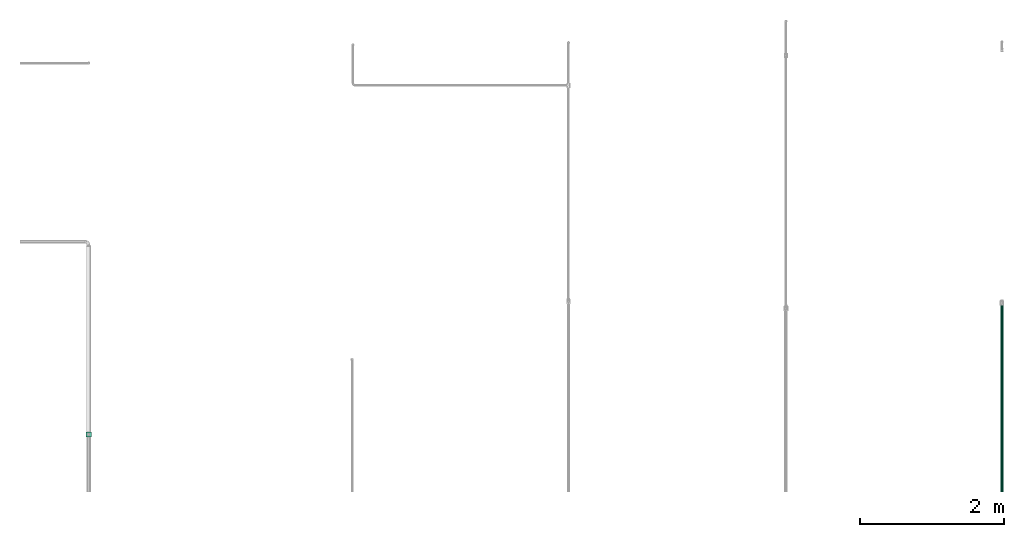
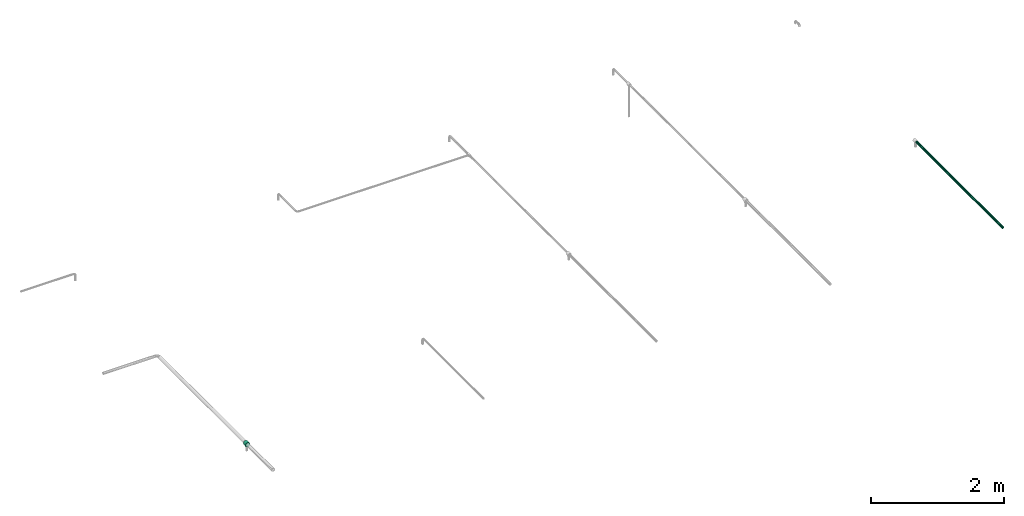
# One storey, part 14 of 17: 1 flow fitting, 1 flow segment.
"""IFC2X3 building model written with IfcOpenShell, lengths in millimetres."""

import ifcopenshell
import ifcopenshell.guid

model = None  # the IFC model being written
_history = None  # IfcOwnerHistory: only IFC2X3 demands one
_inside = {}  # id of a spatial element -> (the spatial element, [elements in it])
_under = {}  # id of a project, library or spatial element -> (it, [spatial elements below it])
_declared = {}  # id of a project -> (the project, [libraries it declares])
_typed = {}  # id of a type object -> (the type object, [elements of that type])
_made_of = {}  # id of a material, layer set ... -> (it, [elements and type objects made of it])


def new_model(schema):
    """Start an empty IFC model of exactly this schema.

    Asked for "IFC4X3", IfcOpenShell would pick the latest addendum, in which some entities
    have other attributes; the version numbers below select the first issue.
    IFC2X3 requires an IfcOwnerHistory on every rooted entity: one is made here for all.
    """
    global model, _history
    if schema == "IFC4X3":
        model = ifcopenshell.file(schema_version=(4, 3, 0, 0))
    else:
        model = ifcopenshell.file(schema=schema)
    _inside.clear()
    _under.clear()
    _declared.clear()
    _typed.clear()
    _made_of.clear()
    _history = None
    if model.schema == "IFC2X3":
        org = make("IfcOrganization", Name="unknown")
        user = make(
            "IfcPersonAndOrganization",
            ThePerson=make("IfcPerson", FamilyName="unknown"),
            TheOrganization=org,
        )
        app = make(
            "IfcApplication",
            ApplicationDeveloper=org,
            Version="unknown",
            ApplicationFullName="unknown",
            ApplicationIdentifier="unknown",
        )
        _history = make(
            "IfcOwnerHistory",
            OwningUser=user,
            OwningApplication=app,
            ChangeAction="ADDED",
            CreationDate=0,
        )
    return model


def make(cls, **values):
    """One entity of the class cls with the attributes given. An attribute that is None is left unset."""
    return model.create_entity(
        cls, **{name: value for name, value in values.items() if value is not None}
    )


def entity(cls, *values):
    """Any entity or typed value of the class cls, its attributes in the order of the schema. None: left unset."""
    e = model.create_entity(cls)
    for i, value in enumerate(values):
        if value is not None:
            e[i] = value
    return e


def rooted(cls, **values):
    """An entity with a GlobalId (a new one), such as an element, a storey or a relation."""
    return make(cls, GlobalId=ifcopenshell.guid.new(), OwnerHistory=_history, **values)


def si_unit(unit_type, name, prefix=None):
    """IfcSIUnit, for example si_unit("LENGTHUNIT", "METRE", prefix="MILLI")."""
    return make("IfcSIUnit", UnitType=unit_type, Prefix=prefix, Name=name)


def converted_unit(unit_type, name, factor, base, dimensions=None, offset=None):
    """IfcConversionBasedUnit, such as the inch: factor (a typed value) times the base unit."""
    return make(
        "IfcConversionBasedUnit"
        if offset is None
        else "IfcConversionBasedUnitWithOffset",
        ConversionOffset=offset,
        Dimensions=None
        if dimensions is None
        else entity("IfcDimensionalExponents", *dimensions),
        UnitType=unit_type,
        Name=name,
        ConversionFactor=make(
            "IfcMeasureWithUnit", ValueComponent=factor, UnitComponent=base
        ),
    )


def derived_unit(unit_type, elements):
    """IfcDerivedUnit: a product of units, each with its exponent."""
    return make(
        "IfcDerivedUnit",
        Elements=[
            make("IfcDerivedUnitElement", Unit=unit, Exponent=power)
            for unit, power in elements
        ],
        UnitType=unit_type,
    )


def assignment(units):
    """IfcUnitAssignment: the units of a project."""
    return None if units is None else make("IfcUnitAssignment", Units=units)


def point(xyz):
    """IfcCartesianPoint."""
    return None if xyz is None else make("IfcCartesianPoint", Coordinates=xyz)


def direction(xyz):
    """IfcDirection."""
    return None if xyz is None else make("IfcDirection", DirectionRatios=xyz)


def frame(location, z_axis=None, x_axis=None):
    """IfcAxis2Placement3D, a coordinate frame: its origin and axes. An axis left out is left unset."""
    return make(
        "IfcAxis2Placement3D",
        Location=point(location),
        Axis=direction(z_axis),
        RefDirection=direction(x_axis),
    )


def origin_with_axes():
    """The frame at (0, 0, 0) with the z axis (0, 0, 1) and the x axis (1, 0, 0) written out."""
    return frame((0.0, 0.0, 0.0), z_axis=(0.0, 0.0, 1.0), x_axis=(1.0, 0.0, 0.0))


def place(relative_to, where):
    """IfcLocalPlacement: puts the frame where relative to a parent placement (None: the world)."""
    return make(
        "IfcLocalPlacement", PlacementRelTo=relative_to, RelativePlacement=where
    )


def context(
    kind, dimensions, precision=None, world=None, true_north=None, identifier=None
):
    """IfcGeometricRepresentationContext, for example the 3D "Model" context."""
    return make(
        "IfcGeometricRepresentationContext",
        ContextIdentifier=identifier,
        ContextType=kind,
        CoordinateSpaceDimension=dimensions,
        Precision=precision,
        WorldCoordinateSystem=world,
        TrueNorth=true_north,
    )


def subcontext(parent, identifier, kind, view, scale=None):
    """IfcGeometricRepresentationSubContext, for example "Body" below "Model"."""
    return make(
        "IfcGeometricRepresentationSubContext",
        ContextIdentifier=identifier,
        ContextType=kind,
        ParentContext=parent,
        TargetScale=scale,
        TargetView=view,
    )


def project(units=None, contexts=None):
    """IfcProject with its units and contexts."""
    return rooted(
        "IfcProject",
        Name="project",
        RepresentationContexts=contexts,
        UnitsInContext=assignment(units),
    )


def spatial(cls, under=None, at=None, **own):
    """A site, building, storey or space (cls), placed at a placement, below another one or the project."""
    s = rooted(cls, ObjectPlacement=at, **own)
    if under is not None:
        _under.setdefault(under.id(), (under, []))[1].append(s)
    return s


def faces_of(points, faces, orient=None, outer=None):
    """IfcFace entities. A face is a list of loops; a loop is a list of indices into points, from 0.

    orient and outer hold one flag for each loop. By default every Orientation is true, the
    first loop of a face is its IfcFaceOuterBound and the others are IfcFaceBound.
    """
    made = []
    for i, loops in enumerate(faces):
        bounds = []
        for j, loop in enumerate(loops):
            is_outer = j == 0 if outer is None else outer[i][j]
            bounds.append(
                make(
                    "IfcFaceOuterBound" if is_outer else "IfcFaceBound",
                    Bound=make("IfcPolyLoop", Polygon=[points[k] for k in loop]),
                    Orientation=True if orient is None else orient[i][j],
                )
            )
        made.append(make("IfcFace", Bounds=bounds))
    return made


def open_shell(faces, orient=None, outer=None):
    """The faces of one IfcOpenShell. surface_model builds it on its shared points."""
    return ("IfcOpenShell", faces, orient, outer)


def faceted_brep(points, faces, orient=None, outer=None, voids=None):
    """IfcFacetedBrep: a solid bounded by flat faces; with voids (closed shells), ...WithVoids."""
    shared = [point(p) for p in points]
    hull = make("IfcClosedShell", CfsFaces=faces_of(shared, faces, orient, outer))
    if voids is None:
        return make("IfcFacetedBrep", Outer=hull)
    return make(
        "IfcFacetedBrepWithVoids",
        Outer=hull,
        Voids=[
            make(cls, CfsFaces=faces_of(shared, fs, o, b)) for cls, fs, o, b in voids
        ],
    )


def surface_model(cls, points, shells):
    """IfcFaceBasedSurfaceModel or IfcShellBasedSurfaceModel (cls): surfaces that need not close."""
    shared = [point(p) for p in points]
    made = [make(c, CfsFaces=faces_of(shared, fs, o, b)) for c, fs, o, b in shells]
    if cls == "IfcFaceBasedSurfaceModel":
        return make(cls, FbsmFaces=made)
    return make(cls, SbsmBoundary=made)


def shape(context_of_items, identifier, shape_type, items):
    """IfcShapeRepresentation: the items that make up one representation, for example the "Body"."""
    return make(
        "IfcShapeRepresentation",
        ContextOfItems=context_of_items,
        RepresentationIdentifier=identifier,
        RepresentationType=shape_type,
        Items=items,
    )


def source(mapping_origin, context_of_items, identifier, shape_type, items):
    """IfcRepresentationMap: a shape defined once, which mapped items show again and again."""
    return make(
        "IfcRepresentationMap",
        MappingOrigin=mapping_origin,
        MappedRepresentation=shape(context_of_items, identifier, shape_type, items),
    )


def transform(
    local_origin,
    x_axis=None,
    y_axis=None,
    z_axis=None,
    scale=None,
    scale2=None,
    scale3=None,
    uniform=True,
):
    """IfcCartesianTransformationOperator3D, or its non-uniform kind. x_axis, y_axis, z_axis: its Axis1, 2, 3."""
    if uniform:
        return make(
            "IfcCartesianTransformationOperator3D",
            Axis1=direction(x_axis),
            Axis2=direction(y_axis),
            LocalOrigin=point(local_origin),
            Scale=scale,
            Axis3=direction(z_axis),
        )
    return make(
        "IfcCartesianTransformationOperator3DnonUniform",
        Axis1=direction(x_axis),
        Axis2=direction(y_axis),
        LocalOrigin=point(local_origin),
        Scale=scale,
        Axis3=direction(z_axis),
        Scale2=scale2,
        Scale3=scale3,
    )


def mapped(mapping_source, mapping_target):
    """IfcMappedItem: shows the shape of a source again, moved by a transform."""
    return make(
        "IfcMappedItem", MappingSource=mapping_source, MappingTarget=mapping_target
    )


def made_of(thing, what):
    """Note that an element or type object is made of a material, layer set ...; save() writes the relation."""
    if what is not None:
        _made_of.setdefault(what.id(), (what, []))[1].append(thing)
    return thing


def type_object(cls, material=None, **own):
    """A type object (cls), such as IfcWallType, which elements share."""
    return made_of(rooted(cls, **own), material)


def element(
    cls,
    number,
    at=None,
    inside=None,
    cuts=None,
    type_object=None,
    material=None,
    context=None,
    identifier="Body",
    shape_type=None,
    held_by="IfcProductDefinitionShape",
    body=None,
    shapes=None,
    **own,
):
    """One element of the class cls, such as IfcWall. Its Tag is "e" and its number.

    at: its placement. inside: the storey or other place that contains it. cuts: it is an
    opening in that element (IfcRelVoidsElement). A single representation is given by context,
    identifier, shape_type and body (its items); several are given by shapes. held_by: the class
    of the entity that holds the representations. save() writes the other relations.
    """
    e = rooted(cls, Tag="e%d" % number, ObjectPlacement=at, **own)
    if body is not None:
        shapes = [shape(context, identifier, shape_type, body)]
    if shapes is not None:
        e.Representation = make(held_by, Representations=shapes)
    if inside is not None:
        _inside.setdefault(inside.id(), (inside, []))[1].append(e)
    if cuts is not None:
        rooted(
            "IfcRelVoidsElement", RelatingBuildingElement=cuts, RelatedOpeningElement=e
        )
    if type_object is not None:
        _typed.setdefault(type_object.id(), (type_object, []))[1].append(e)
    return made_of(e, material)


def aggregate(whole, parts):
    """IfcRelAggregates: a whole, such as a stair, and the parts it consists of."""
    return rooted("IfcRelAggregates", RelatingObject=whole, RelatedObjects=parts)


def save(model, path):
    """Write the relations noted so far, then the file.

    IfcRelAggregates (storeys below a building ...), IfcRelContainedInSpatialStructure (elements
    in a storey), IfcRelDefinesByType, IfcRelAssociatesMaterial and IfcRelDeclares: one each for
    every whole, place, type object, material and project.
    """
    for whole, parts in _under.values():
        aggregate(whole, parts)
    for where, things in _inside.values():
        rooted(
            "IfcRelContainedInSpatialStructure",
            RelatedElements=things,
            RelatingStructure=where,
        )
    for kind, things in _typed.values():
        rooted("IfcRelDefinesByType", RelatedObjects=things, RelatingType=kind)
    for what, things in _made_of.values():
        rooted("IfcRelAssociatesMaterial", RelatedObjects=things, RelatingMaterial=what)
    for by, libraries in _declared.values():
        rooted("IfcRelDeclares", RelatingContext=by, RelatedDefinitions=libraries)
    model.write(path)


model = new_model("IFC2X3")

# Units and contexts
model_context = context("Model", 3, precision=0.01, world=frame((0.0, 4.29681676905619e-09, 0.0)), true_north=direction((4.01073788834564e-13, 1.0)))
plan_context = context("Plan", 3, precision=0.01, world=frame((0.0, 4.29681676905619e-09, 0.0)), true_north=direction((4.01073788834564e-13, 1.0)))
body_context = subcontext(model_context, "Body", "Model", "MODEL_VIEW")
ifc_project = project(units=[converted_unit("PLANEANGLEUNIT", "DEGREE", entity("IfcPositiveLengthMeasure", 0.0174532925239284), si_unit("PLANEANGLEUNIT", "RADIAN"), dimensions=[0, 0, 0, 0, 0, 0, 0]), si_unit("AREAUNIT", "SQUARE_METRE"), si_unit("LENGTHUNIT", "METRE", prefix="MILLI"), si_unit("MASSUNIT", "GRAM", prefix="KILO"), si_unit("POWERUNIT", "WATT"), si_unit("PRESSUREUNIT", "PASCAL"), si_unit("FORCEUNIT", "NEWTON", prefix="KILO"), si_unit("ELECTRICVOLTAGEUNIT", "VOLT"), si_unit("ELECTRICCURRENTUNIT", "AMPERE"), si_unit("THERMODYNAMICTEMPERATUREUNIT", "DEGREE_CELSIUS"), si_unit("TIMEUNIT", "SECOND"), si_unit("VOLUMEUNIT", "CUBIC_METRE"), derived_unit("LINEARVELOCITYUNIT", [(si_unit("LENGTHUNIT", "METRE"), 1), (si_unit("TIMEUNIT", "SECOND"), -1)]), derived_unit("VOLUMETRICFLOWRATEUNIT", [(si_unit("VOLUMEUNIT", "CUBIC_METRE"), 1), (si_unit("TIMEUNIT", "SECOND"), -1)]), derived_unit("THERMALTRANSMITTANCEUNIT", [(si_unit("POWERUNIT", "WATT"), 1), (si_unit("THERMODYNAMICTEMPERATUREUNIT", "KELVIN"), -1), (si_unit("AREAUNIT", "SQUARE_METRE"), -1)]), derived_unit("SOUNDPRESSUREUNIT", [(si_unit("PRESSUREUNIT", "PASCAL"), 1)])], contexts=[model_context, plan_context])

# Site, building, storey
site_placement = place(None, frame((0.0, -4.29681676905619e-09, 0.0), z_axis=(0.0, 0.0, 1.0), x_axis=(1.0, 0.0, 0.0)))
site = spatial("IfcSite", under=ifc_project, at=site_placement, Name="ENGM", CompositionType="ELEMENT")
building_placement = place(site_placement, frame((0.0, 4.29681676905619e-09, 0.0), z_axis=(0.0, 0.0, 1.0), x_axis=(1.0, 0.0, 0.0)))
building = spatial("IfcBuilding", under=site, at=building_placement, Name="TH", CompositionType="ELEMENT")
storey_placement = place(building_placement, frame((0.0, 0.0, 205200.0), z_axis=(0.0, 0.0, 1.0), x_axis=(1.0, 0.0, 0.0)))
storey = spatial("IfcBuildingStorey", under=building, at=storey_placement, Name="Nivå D + 1,2 m", CompositionType="ELEMENT", Elevation=205200.0)

# Flow fitting
pipe_fitting_type = type_object("IfcPipeFittingType", Name="magi_pipe_fe_tee_centric_90_NOR 2", PredefinedType="JUNCTION")
shared_shape = source(origin_with_axes(), body_context, "Body", "SurfaceModel", [
    surface_model("IfcShellBasedSurfaceModel", [(-33.8, 15.1, -26.15397), (-33.8, 7.81634, -29.17096), (-33.8, 0.0, -30.2), (-33.8, 29.17096, -7.81634), (-33.8, 26.15397, -15.1), (-33.8, 21.35462, -21.35462), (-33.8, 30.2, 0.0), (-33.8, -30.2, 0.0), (-33.8, -15.1, -26.15397), (-33.8, -21.35462, -21.35462), (-33.8, -7.81634, -29.17096), (-33.8, -26.15397, -15.1), (-33.8, -29.17096, -7.81634), (-33.8, 26.15397, 15.1), (-33.8, 29.17096, 7.81634), (-33.8, 15.1, 26.15397), (-33.8, -21.35462, 21.35462), (-33.8, 21.35462, 21.35462), (-33.8, 7.81634, 29.17096), (-33.8, -29.17096, 7.81634), (-33.8, -26.15397, 15.1), (-33.8, -7.81634, 29.17096), (-33.8, 0.0, 30.2), (-33.8, -15.1, 26.15397), (33.8, 29.17096, -7.81634), (33.8, 0.0, -30.2), (33.8, 7.81634, -29.17096), (33.8, 21.35462, -21.35462), (33.8, 15.1, -26.15397), (33.8, 26.15397, -15.1), (33.8, -30.2, 0.0), (33.8, -7.81634, -29.17096), (33.8, -21.35462, -21.35462), (33.8, -15.1, -26.15397), (33.8, -29.17096, -7.81634), (33.8, -26.15397, -15.1), (33.8, 30.2, 0.0), (33.8, 29.17096, 7.81634), (33.8, 26.15397, 15.1), (33.8, -29.17096, 7.81634), (33.8, 15.1, 26.15397), (33.8, 7.81634, 29.17096), (33.8, 21.35462, 21.35462), (33.8, -21.35462, 21.35462), (33.8, -26.15397, 15.1), (33.8, -15.1, 26.15397), (33.8, 0.0, 30.2), (33.8, -7.81634, 29.17096), (33.8, -29.68548, 3.90817), (15.846, -29.62306, 5.87488), (16.373, -29.91153, 2.93744), (12.91037, -28.16217, 10.90561), (2.99213, -25.2068, 16.63301), (16.9, -30.2, 0.0), (33.8, -27.66246, 11.45817), (8.50854, -26.43531, 14.60187), (-8.51006, -26.43579, 14.60099), (-33.8, -27.66246, 11.45817), (-12.91447, -28.16405, 10.90075), (-15.84655, -29.62335, 5.87341), (-33.8, -29.68548, 3.90817), (-16.37327, -29.91168, 2.93671), (-16.9, -30.2, 0.0), (-2.99705, -25.20739, 16.63213), (2.99213, -25.2068, -16.63301), (-16.37327, -29.91168, -2.93671), (8.50854, -26.43531, -14.60187), (33.8, -27.66246, -11.45817), (16.373, -29.91153, -2.93744), (-33.8, -29.68548, -3.90817), (-15.84655, -29.62335, -5.87341), (15.846, -29.62306, -5.87488), (12.91037, -28.16217, -10.90561), (33.8, -29.68548, -3.90817), (-2.99705, -25.20739, -16.63213), (-8.51006, -26.43579, -14.60099), (-12.91447, -28.16405, -10.90075), (-33.8, -27.66246, -11.45817), (4.37404, -45.3, -16.32415), (-16.9, -45.3, 0.0), (0.0, -45.3, -16.9), (14.63583, -45.3, -8.45), (8.45, -45.3, -14.63583), (16.32415, -45.3, -4.37404), (11.9501, -45.3, -11.9501), (-11.9501, -45.3, -11.9501), (-8.45, -45.3, -14.63583), (-4.37404, -45.3, -16.32415), (-14.63583, -45.3, -8.45), (-16.32415, -45.3, -4.37404), (8.45, -45.3, 14.63583), (16.32415, -45.3, 4.37404), (14.63583, -45.3, 8.45), (11.9501, -45.3, 11.9501), (-16.32415, -45.3, 4.37404), (-11.9501, -45.3, 11.9501), (-14.63583, -45.3, 8.45), (-8.45, -45.3, 14.63583), (0.0, -45.3, 16.9), (-4.37404, -45.3, 16.32415), (-5.75355, -25.82159, 15.61656), (-0.00246, -25.20709, 16.63257), (5.75034, -25.82105, 15.61744), (4.37404, -45.3, 16.32415), (16.9, -45.3, 0.0), (5.75034, -25.82105, -15.61744), (-0.00246, -25.20709, -16.63257), (-5.75355, -25.82159, -15.61656), (0.0, -45.3, -25.9), (6.70341, -45.3, -25.01748), (12.95, -45.3, -22.43006), (-6.70341, -45.3, -25.01748), (22.43006, -45.3, -12.95), (25.01748, -45.3, -6.70341), (18.31407, -45.3, -18.31407), (-18.31407, -45.3, -18.31407), (-12.95, -45.3, -22.43006), (-25.01748, -45.3, -6.70341), (-22.43006, -45.3, -12.95), (-25.9, -45.3, 0.0), (-18.31407, -45.3, 18.31407), (25.9, -45.3, 0.0), (25.01748, -45.3, 6.70341), (22.43006, -45.3, 12.95), (12.95, -45.3, 22.43006), (18.31407, -45.3, 18.31407), (0.0, -45.3, 25.9), (6.70341, -45.3, 25.01748), (-25.01748, -45.3, 6.70341), (-22.43006, -45.3, 12.95), (-6.70341, -45.3, 25.01748), (-12.95, -45.3, 22.43006), (-25.07799, -38.66687, 4.54031), (-19.74582, -35.43625, 16.76045), (-24.25598, -38.13374, 9.08062), (-13.06366, -32.19456, 22.36405), (25.07844, -38.66716, 4.53909), (-25.9, -39.2, 0.0), (-4.63094, -29.78717, 25.48263), (4.63876, -29.78839, 25.48121), (0.00391, -29.78778, 25.48192), (13.06597, -32.19549, 22.3627), (19.75141, -35.43936, 16.75386), (24.25689, -38.13432, 9.07819), (25.9, -39.2, 0.0), (25.07844, -38.66716, -4.53909), (19.75141, -35.43936, -16.75386), (24.25689, -38.13432, -9.07819), (13.06597, -32.19549, -22.3627), (-25.07799, -38.66687, -4.54031), (4.63876, -29.78839, -25.48121), (-4.63094, -29.78717, -25.48263), (0.00391, -29.78778, -25.48192), (-13.06366, -32.19456, -22.36405), (-19.74582, -35.43625, -16.76045), (-24.25598, -38.13374, -9.08062), (-33.8, 10.14571, -37.86429), (-33.8, 0.0, -39.2), (-33.8, -10.14571, -37.86429), (-33.8, 19.6, -33.9482), (-33.8, 37.86429, -10.14571), (-33.8, 33.9482, -19.6), (-33.8, 27.71859, -27.71859), (-33.8, -27.71859, -27.71859), (-33.8, 39.2, 0.0), (-33.8, -19.6, -33.9482), (-33.8, -37.86429, -10.14571), (-33.8, -39.2, 0.0), (-33.8, -33.9482, -19.6), (-33.8, 33.9482, 19.6), (-33.8, 37.86429, 10.14571), (-33.8, -37.86429, 10.14571), (-33.8, 19.6, 33.9482), (-33.8, 27.71859, 27.71859), (-33.8, 10.14571, 37.86429), (-33.8, 0.0, 39.2), (-33.8, -33.9482, 19.6), (-33.8, -27.71859, 27.71859), (-33.8, -19.6, 33.9482), (-33.8, -10.14571, 37.86429), (33.8, -10.14571, -37.86429), (33.8, 0.0, -39.2), (33.8, 10.14571, -37.86429), (33.8, 19.6, -33.9482), (33.8, 27.71859, -27.71859), (33.8, 33.9482, -19.6), (33.8, 37.86429, -10.14571), (33.8, -37.86429, 10.14571), (33.8, -27.71859, -27.71859), (33.8, -19.6, -33.9482), (33.8, -33.9482, -19.6), (33.8, -39.2, 0.0), (33.8, -37.86429, -10.14571), (33.8, 39.2, 0.0), (33.8, 19.6, 33.9482), (33.8, 37.86429, 10.14571), (33.8, 33.9482, 19.6), (33.8, 0.0, 39.2), (33.8, 27.71859, 27.71859), (33.8, 10.14571, 37.86429), (33.8, -27.71859, 27.71859), (33.8, -33.9482, 19.6), (33.8, -19.6, 33.9482), (33.8, -10.14571, 37.86429), (33.8, -38.19822, 7.60928), (33.8, -30.83339, 23.65929), (33.8, -38.53215, 5.07285), (22.00415, -36.78684, 12.91602), (-22.0009, -36.78499, 12.92053), (-33.8, -36.88527, 12.50928), (33.8, -35.90624, 14.87285), (-33.8, -35.90624, 14.87285), (-33.8, -38.19822, 7.60928), (-24.66698, -38.40031, 6.81046), (33.8, -36.88527, 12.50928), (24.66766, -38.40074, 6.80864), (-33.8, -30.83339, 23.65929), (-33.8, -38.53215, 5.07285), (33.8, -38.53215, -5.07285), (-22.0009, -36.78499, -12.92053), (-33.8, -35.90624, -14.87285), (33.8, -35.90624, -14.87285), (22.00415, -36.78684, -12.91602), (33.8, -36.88527, -12.50928), (-33.8, -36.88527, -12.50928), (24.66766, -38.40074, -6.80864), (-33.8, -30.83339, -23.65929), (-33.8, -38.19822, -7.60928), (-24.66698, -38.40031, -6.81046), (-33.8, -38.53215, -5.07285), (33.8, -30.83339, -23.65929), (33.8, -38.19822, -7.60928)], [open_shell([[[0, 1, 2]], [[3, 0, 2]], [[0, 3, 4]], [[5, 0, 4]], [[6, 2, 7]], [[8, 9, 10]], [[9, 2, 10]], [[11, 12, 9]], [[7, 9, 12]], [[9, 7, 2]], [[6, 3, 2]], [[13, 14, 6]], [[7, 15, 13]], [[7, 16, 15]], [[17, 13, 15]], [[18, 15, 16]], [[19, 20, 7]], [[7, 20, 16]], [[21, 22, 23]], [[16, 23, 22]], [[16, 22, 18]], [[7, 13, 6]], [[24, 25, 26]], [[27, 26, 28]], [[29, 24, 26]], [[29, 26, 27]], [[25, 24, 30]], [[31, 32, 33]], [[32, 31, 34]], [[32, 34, 35]], [[34, 31, 30]], [[31, 25, 30]], [[24, 36, 30]], [[36, 37, 38]], [[39, 36, 38]], [[40, 41, 38]], [[40, 38, 42]], [[43, 38, 41]], [[39, 43, 44]], [[39, 38, 43]], [[45, 46, 47]], [[46, 45, 43]], [[41, 46, 43]], [[36, 39, 30]], [[48, 39, 49]], [[30, 48, 50]], [[39, 51, 49]], [[44, 43, 52]], [[30, 50, 53]], [[51, 54, 55]], [[52, 55, 44]], [[48, 49, 50]], [[43, 16, 52]], [[55, 54, 44]], [[56, 57, 58]], [[59, 60, 61]], [[62, 61, 7]], [[59, 58, 19]], [[56, 63, 20]], [[51, 39, 54]], [[20, 57, 56]], [[20, 63, 16]], [[58, 57, 19]], [[63, 52, 16]], [[7, 61, 60]], [[59, 19, 60]], [[43, 23, 16]], [[22, 47, 46]], [[21, 45, 47]], [[18, 46, 41]], [[38, 37, 14]], [[17, 40, 42]], [[13, 42, 38]], [[41, 40, 15]], [[6, 37, 36]], [[23, 45, 21]], [[21, 47, 22]], [[18, 22, 46]], [[41, 15, 18]], [[15, 40, 17]], [[13, 17, 42]], [[14, 13, 38]], [[37, 6, 14]], [[45, 23, 43]], [[4, 24, 29]], [[3, 36, 24]], [[5, 29, 27]], [[25, 31, 10]], [[1, 28, 26]], [[2, 26, 25]], [[27, 28, 0]], [[8, 31, 33]], [[6, 36, 3]], [[3, 24, 4]], [[5, 4, 29]], [[27, 0, 5]], [[0, 28, 1]], [[2, 1, 26]], [[10, 2, 25]], [[31, 8, 10]], [[33, 9, 8]], [[32, 35, 64]], [[7, 65, 62]], [[66, 64, 35]], [[67, 66, 35]], [[32, 64, 9]], [[53, 68, 30]], [[69, 70, 65]], [[71, 72, 34]], [[71, 73, 68]], [[66, 67, 72]], [[34, 72, 67]], [[74, 75, 11]], [[76, 12, 77]], [[11, 9, 74]], [[76, 77, 75]], [[74, 9, 64]], [[76, 70, 12]], [[71, 34, 73]], [[70, 69, 12]], [[65, 7, 69]], [[30, 68, 73]], [[77, 11, 75]], [[32, 9, 33]], [[78, 79, 80]], [[81, 78, 82]], [[81, 83, 78]], [[81, 82, 84]], [[79, 78, 83]], [[80, 85, 86]], [[86, 87, 80]], [[88, 79, 89]], [[85, 80, 88]], [[79, 88, 80]], [[90, 91, 92]], [[90, 92, 93]], [[94, 95, 96]], [[97, 98, 99]], [[94, 61, 79]], [[58, 96, 95]], [[94, 96, 59]], [[95, 97, 56]], [[61, 62, 79]], [[59, 96, 58]], [[99, 63, 100]], [[56, 58, 95]], [[98, 52, 101]], [[90, 102, 103]], [[98, 103, 52]], [[50, 49, 91]], [[50, 104, 53]], [[102, 90, 55]], [[100, 97, 99]], [[100, 56, 97]], [[98, 63, 99]], [[94, 59, 61]], [[55, 90, 93]], [[93, 51, 55]], [[52, 103, 102]], [[91, 49, 92]], [[104, 50, 91]], [[92, 49, 51]], [[92, 51, 93]], [[101, 63, 98]], [[83, 68, 104]], [[72, 81, 84]], [[83, 81, 71]], [[84, 82, 66]], [[68, 53, 104]], [[71, 81, 72]], [[78, 64, 105]], [[66, 72, 84]], [[80, 74, 106]], [[86, 107, 87]], [[65, 70, 89]], [[105, 82, 78]], [[105, 66, 82]], [[75, 86, 85]], [[83, 71, 68]], [[70, 88, 89]], [[65, 79, 62]], [[85, 88, 76]], [[80, 64, 78]], [[87, 107, 74]], [[74, 80, 87]], [[75, 107, 86]], [[75, 85, 76]], [[76, 88, 70]], [[79, 65, 89]], [[106, 64, 80]], [[108, 109, 110]], [[111, 108, 110]], [[112, 113, 110]], [[112, 110, 114]], [[111, 110, 113]], [[111, 115, 116]], [[115, 111, 117]], [[115, 117, 118]], [[117, 111, 119]], [[111, 113, 119]], [[113, 120, 119]], [[121, 122, 123]], [[124, 113, 123]], [[113, 124, 120]], [[124, 123, 125]], [[126, 124, 127]], [[128, 120, 129]], [[119, 120, 128]], [[120, 130, 131]], [[130, 120, 126]], [[124, 126, 120]], [[123, 113, 121]], [[119, 128, 132]], [[133, 129, 120]], [[128, 129, 134]], [[120, 131, 135]], [[121, 136, 122]], [[119, 132, 137]], [[134, 129, 133]], [[126, 138, 130]], [[135, 130, 138]], [[135, 133, 120]], [[126, 139, 140]], [[135, 131, 130]], [[139, 126, 127]], [[124, 141, 127]], [[142, 125, 123]], [[124, 125, 141]], [[143, 123, 122]], [[125, 142, 141]], [[141, 139, 127]], [[122, 136, 143]], [[143, 142, 123]], [[128, 134, 132]], [[121, 144, 136]], [[140, 138, 126]], [[121, 113, 145]], [[146, 112, 114]], [[113, 112, 147]], [[114, 110, 148]], [[119, 149, 117]], [[121, 145, 144]], [[147, 112, 146]], [[148, 109, 150]], [[148, 146, 114]], [[108, 151, 152]], [[148, 110, 109]], [[151, 108, 111]], [[116, 153, 111]], [[108, 150, 109]], [[154, 115, 118]], [[115, 153, 116]], [[155, 118, 117]], [[115, 154, 153]], [[153, 151, 111]], [[117, 149, 155]], [[155, 154, 118]], [[113, 147, 145]], [[119, 137, 149]], [[152, 150, 108]], [[156, 157, 158]], [[156, 158, 159]], [[160, 161, 162]], [[159, 160, 162]], [[159, 163, 164]], [[165, 163, 158]], [[163, 159, 158]], [[166, 167, 168]], [[163, 168, 167]], [[167, 164, 163]], [[160, 159, 164]], [[169, 170, 167]], [[169, 167, 171]], [[169, 171, 172]], [[173, 169, 172]], [[174, 172, 175]], [[176, 177, 171]], [[178, 171, 177]], [[179, 175, 178]], [[171, 178, 175]], [[175, 172, 171]], [[164, 167, 170]], [[180, 181, 182]], [[183, 180, 182]], [[184, 185, 186]], [[184, 186, 183]], [[187, 188, 183]], [[180, 188, 189]], [[180, 183, 188]], [[190, 191, 192]], [[191, 190, 188]], [[188, 187, 191]], [[193, 183, 186]], [[194, 193, 195]], [[194, 195, 196]], [[193, 194, 197]], [[194, 196, 198]], [[197, 194, 199]], [[187, 200, 201]], [[200, 187, 202]], [[202, 197, 203]], [[197, 202, 187]], [[187, 193, 197]], [[193, 187, 183]], [[204, 187, 143]], [[141, 201, 205]], [[191, 206, 136]], [[187, 207, 143]], [[200, 139, 205]], [[171, 208, 209]], [[141, 142, 201]], [[141, 205, 139]], [[191, 136, 144]], [[139, 202, 138]], [[207, 210, 142]], [[133, 176, 211]], [[212, 213, 134]], [[207, 214, 210]], [[206, 215, 136]], [[137, 132, 167]], [[133, 211, 208]], [[134, 171, 212]], [[138, 177, 216]], [[217, 132, 213]], [[135, 176, 133]], [[176, 135, 216]], [[215, 206, 204]], [[171, 134, 208]], [[177, 138, 178]], [[142, 210, 201]], [[138, 216, 135]], [[207, 187, 214]], [[202, 139, 200]], [[175, 203, 197]], [[179, 202, 203]], [[174, 197, 199]], [[196, 195, 170]], [[173, 194, 198]], [[169, 198, 196]], [[199, 194, 172]], [[164, 195, 193]], [[208, 211, 209]], [[178, 202, 179]], [[217, 213, 212]], [[179, 203, 175]], [[174, 175, 197]], [[204, 143, 215]], [[199, 172, 174]], [[172, 194, 173]], [[169, 173, 198]], [[170, 169, 196]], [[195, 164, 170]], [[202, 178, 138]], [[167, 132, 217]], [[164, 193, 186]], [[191, 145, 218]], [[186, 185, 160]], [[166, 219, 155]], [[220, 154, 219]], [[184, 161, 185]], [[158, 181, 180]], [[156, 183, 182]], [[146, 190, 221]], [[222, 221, 223]], [[181, 157, 182]], [[180, 189, 165]], [[184, 183, 162]], [[167, 149, 137]], [[161, 160, 185]], [[219, 166, 224]], [[164, 186, 160]], [[218, 145, 225]], [[184, 162, 161]], [[153, 168, 226]], [[159, 183, 156]], [[157, 156, 182]], [[181, 158, 157]], [[227, 155, 228]], [[162, 183, 159]], [[229, 228, 149]], [[165, 158, 180]], [[189, 151, 165]], [[230, 190, 148]], [[192, 222, 223]], [[150, 188, 230]], [[190, 146, 148]], [[150, 151, 189]], [[144, 145, 191]], [[146, 221, 222]], [[231, 225, 147]], [[228, 229, 227]], [[222, 192, 147]], [[153, 226, 151]], [[150, 230, 148]], [[163, 151, 226]], [[153, 154, 168]], [[163, 165, 151]], [[224, 220, 219]], [[147, 192, 231]], [[155, 227, 166]], [[149, 167, 229]], [[218, 225, 231]], [[154, 220, 168]], [[189, 188, 150]], [[83, 91, 79]], [[94, 79, 91]], [[95, 91, 90]], [[95, 90, 103]], [[94, 91, 95]], [[97, 95, 103]], [[98, 97, 103]], [[91, 83, 104]]])]),
])
flow_fitting_placement = place(storey_placement, frame((895782.28739, 476833.50742, 4417.71893), z_axis=(1.0, 0.0, 0.0), x_axis=(0.0, 1.0, 0.0)))
element("IfcFlowFitting", 1, at=flow_fitting_placement, inside=storey, type_object=pipe_fitting_type, Name="magi_pipe_fe_tee_centric_90_NOR 2", context=body_context, shape_type="MappedRepresentation", body=[
    mapped(shared_shape, transform((0.0, 0.0, 0.0), scale=1.0)),
])

# Flow segment
pipe_segment_type = type_object("IfcPipeSegmentType", Name="Stålrør normaltykke", PredefinedType="RIGIDSEGMENT")
flow_segment_placement = place(storey_placement, frame((908433.37511, 475096.53685, 4432.21101), z_axis=(0.0, 0.0, 1.0), x_axis=(0.0, 1.0, 0.0)))
element("IfcFlowSegment", 2, at=flow_segment_placement, inside=storey, type_object=pipe_segment_type, Name="Stålrør normaltykke", context=body_context, shape_type="Brep", body=[
    faceted_brep([(938.140070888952, 18.9083088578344, -3.33404501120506), (938.140070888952, 19.2, 0.0), (3525.3, 19.2, 0.0), (3525.3, 18.9083088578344, -3.33404501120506), (938.140070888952, 18.0420983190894, -6.56678675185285), (3525.3, 18.0420983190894, -6.56678675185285), (938.140070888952, 16.6276877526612, -9.60000000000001), (3525.3, 16.6276877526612, -9.60000000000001), (938.140070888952, 14.7080533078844, -12.3415221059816), (3525.3, 14.7080533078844, -12.3415221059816), (938.140070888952, 12.3415221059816, -14.7080533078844), (3525.3, 12.3415221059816, -14.7080533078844), (938.140070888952, 9.6, -16.6276877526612), (3525.3, 9.6, -16.6276877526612), (938.140070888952, 6.56678675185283, -18.0420983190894), (3525.3, 6.56678675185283, -18.0420983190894), (938.140070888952, 3.33404501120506, -18.9083088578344), (3525.3, 3.33404501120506, -18.9083088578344), (938.140070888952, -3.52698278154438e-15, -19.2), (3525.3, -3.52698278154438e-15, -19.2), (938.140070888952, -3.33404501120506, -18.9083088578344), (3525.3, -3.33404501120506, -18.9083088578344), (938.140070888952, -6.56678675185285, -18.0420983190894), (3525.3, -6.56678675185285, -18.0420983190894), (938.140070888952, -9.60000000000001, -16.6276877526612), (3525.3, -9.60000000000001, -16.6276877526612), (938.140070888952, -12.3415221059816, -14.7080533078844), (3525.3, -12.3415221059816, -14.7080533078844), (938.140070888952, -14.7080533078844, -12.3415221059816), (3525.3, -14.7080533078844, -12.3415221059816), (938.140070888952, -16.6276877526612, -9.59999999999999), (3525.3, -16.6276877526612, -9.59999999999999), (938.140070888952, -18.0420983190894, -6.56678675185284), (3525.3, -18.0420983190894, -6.56678675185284), (938.140070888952, -18.9083088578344, -3.33404501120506), (3525.3, -18.9083088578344, -3.33404501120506), (938.140070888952, -19.2, 2.35132185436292e-15), (3525.3, -19.2, 2.35132185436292e-15), (938.140070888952, -18.9083088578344, 3.33404501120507), (3525.3, -18.9083088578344, 3.33404501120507), (938.140070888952, -18.0420983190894, 6.56678675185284), (3525.3, -18.0420983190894, 6.56678675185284), (938.140070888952, -16.6276877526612, 9.6), (3525.3, -16.6276877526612, 9.6), (938.140070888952, -14.7080533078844, 12.3415221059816), (3525.3, -14.7080533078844, 12.3415221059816), (938.140070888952, -12.3415221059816, 14.7080533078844), (3525.3, -12.3415221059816, 14.7080533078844), (938.140070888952, -9.6, 16.6276877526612), (3525.3, -9.6, 16.6276877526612), (938.140070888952, -6.56678675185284, 18.0420983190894), (3525.3, -6.56678675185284, 18.0420983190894), (938.140070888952, -3.33404501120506, 18.9083088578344), (3525.3, -3.33404501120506, 18.9083088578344), (938.140070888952, 1.17566092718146e-15, 19.2), (3525.3, 1.17566092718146e-15, 19.2), (938.140070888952, 3.33404501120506, 18.9083088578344), (3525.3, 3.33404501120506, 18.9083088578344), (938.140070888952, 6.56678675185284, 18.0420983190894), (3525.3, 6.56678675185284, 18.0420983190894), (938.140070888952, 9.6, 16.6276877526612), (3525.3, 9.6, 16.6276877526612), (938.140070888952, 12.3415221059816, 14.7080533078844), (3525.3, 12.3415221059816, 14.7080533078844), (938.140070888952, 14.7080533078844, 12.3415221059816), (3525.3, 14.7080533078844, 12.3415221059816), (938.140070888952, 16.6276877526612, 9.6), (3525.3, 16.6276877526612, 9.6), (938.140070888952, 18.0420983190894, 6.56678675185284), (3525.3, 18.0420983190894, 6.56678675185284), (938.140070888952, 18.9083088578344, 3.33404501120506), (3525.3, 18.9083088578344, 3.33404501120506), (938.140070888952, 21.2, 0.0), (938.140070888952, 20.8779243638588, -3.68134136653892), (3525.3, 20.8779243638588, -3.68134136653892), (3525.3, 21.2, 0.0), (938.140070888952, 20.8779243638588, 3.68134136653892), (3525.3, 20.8779243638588, 3.68134136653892), (938.140070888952, 19.9214835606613, 7.25082703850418), (3525.3, 19.9214835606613, 7.25082703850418), (938.140070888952, 18.3597385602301, 10.6), (3525.3, 18.3597385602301, 10.6), (938.140070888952, 16.2401421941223, 13.6270973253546), (3525.3, 16.2401421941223, 13.6270973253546), (938.140070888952, 13.6270973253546, 16.2401421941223), (3525.3, 13.6270973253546, 16.2401421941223), (938.140070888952, 10.6, 18.3597385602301), (3525.3, 10.6, 18.3597385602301), (938.140070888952, 7.25082703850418, 19.9214835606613), (3525.3, 7.25082703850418, 19.9214835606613), (938.140070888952, 3.68134136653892, 20.8779243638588), (3525.3, 3.68134136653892, 20.8779243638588), (938.140070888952, 1.29812560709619e-15, 21.2), (3525.3, 1.29812560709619e-15, 21.2), (938.140070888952, -3.68134136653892, 20.8779243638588), (3525.3, -3.68134136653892, 20.8779243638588), (938.140070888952, -7.25082703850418, 19.9214835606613), (3525.3, -7.25082703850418, 19.9214835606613), (938.140070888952, -10.6, 18.3597385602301), (3525.3, -10.6, 18.3597385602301), (938.140070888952, -13.6270973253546, 16.2401421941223), (3525.3, -13.6270973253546, 16.2401421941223), (938.140070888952, -16.2401421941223, 13.6270973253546), (3525.3, -16.2401421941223, 13.6270973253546), (938.140070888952, -18.3597385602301, 10.6), (3525.3, -18.3597385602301, 10.6), (938.140070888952, -19.9214835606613, 7.25082703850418), (3525.3, -19.9214835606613, 7.25082703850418), (938.140070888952, -20.8779243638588, 3.68134136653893), (3525.3, -20.8779243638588, 3.68134136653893), (938.140070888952, -21.2, 2.59625121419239e-15), (3525.3, -21.2, 2.59625121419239e-15), (938.140070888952, -20.8779243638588, -3.68134136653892), (3525.3, -20.8779243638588, -3.68134136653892), (938.140070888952, -19.9214835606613, -7.25082703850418), (3525.3, -19.9214835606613, -7.25082703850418), (938.140070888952, -18.3597385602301, -10.6), (3525.3, -18.3597385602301, -10.6), (938.140070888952, -16.2401421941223, -13.6270973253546), (3525.3, -16.2401421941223, -13.6270973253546), (938.140070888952, -13.6270973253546, -16.2401421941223), (3525.3, -13.6270973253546, -16.2401421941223), (938.140070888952, -10.6, -18.3597385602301), (3525.3, -10.6, -18.3597385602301), (938.140070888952, -7.25082703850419, -19.9214835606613), (3525.3, -7.25082703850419, -19.9214835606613), (938.140070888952, -3.68134136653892, -20.8779243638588), (3525.3, -3.68134136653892, -20.8779243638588), (938.140070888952, -3.89437682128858e-15, -21.2), (3525.3, -3.89437682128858e-15, -21.2), (938.140070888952, 3.68134136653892, -20.8779243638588), (3525.3, 3.68134136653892, -20.8779243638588), (938.140070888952, 7.25082703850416, -19.9214835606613), (3525.3, 7.25082703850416, -19.9214835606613), (938.140070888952, 10.6, -18.3597385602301), (3525.3, 10.6, -18.3597385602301), (938.140070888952, 13.6270973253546, -16.2401421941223), (3525.3, 13.6270973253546, -16.2401421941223), (938.140070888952, 16.2401421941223, -13.6270973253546), (3525.3, 16.2401421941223, -13.6270973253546), (938.140070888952, 18.3597385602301, -10.6), (3525.3, 18.3597385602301, -10.6), (938.140070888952, 19.9214835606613, -7.25082703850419), (3525.3, 19.9214835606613, -7.25082703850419)], [[[0, 1, 2, 3]], [[4, 0, 3, 5]], [[6, 4, 5, 7]], [[8, 6, 7, 9]], [[10, 8, 9, 11]], [[12, 10, 11, 13]], [[14, 12, 13, 15]], [[16, 14, 15, 17]], [[18, 16, 17, 19]], [[20, 18, 19, 21]], [[22, 20, 21, 23]], [[24, 22, 23, 25]], [[26, 24, 25, 27]], [[28, 26, 27, 29]], [[30, 28, 29, 31]], [[32, 30, 31, 33]], [[34, 32, 33, 35]], [[36, 34, 35, 37]], [[38, 36, 37, 39]], [[40, 38, 39, 41]], [[42, 40, 41, 43]], [[44, 42, 43, 45]], [[46, 44, 45, 47]], [[48, 46, 47, 49]], [[50, 48, 49, 51]], [[52, 50, 51, 53]], [[54, 52, 53, 55]], [[56, 54, 55, 57]], [[58, 56, 57, 59]], [[60, 58, 59, 61]], [[62, 60, 61, 63]], [[64, 62, 63, 65]], [[66, 64, 65, 67]], [[68, 66, 67, 69]], [[70, 68, 69, 71]], [[1, 70, 71, 2]], [[72, 73, 74, 75]], [[76, 72, 75, 77]], [[78, 76, 77, 79]], [[80, 78, 79, 81]], [[82, 80, 81, 83]], [[84, 82, 83, 85]], [[86, 84, 85, 87]], [[88, 86, 87, 89]], [[90, 88, 89, 91]], [[92, 90, 91, 93]], [[94, 92, 93, 95]], [[96, 94, 95, 97]], [[98, 96, 97, 99]], [[100, 98, 99, 101]], [[102, 100, 101, 103]], [[104, 102, 103, 105]], [[106, 104, 105, 107]], [[108, 106, 107, 109]], [[110, 108, 109, 111]], [[112, 110, 111, 113]], [[114, 112, 113, 115]], [[116, 114, 115, 117]], [[118, 116, 117, 119]], [[120, 118, 119, 121]], [[122, 120, 121, 123]], [[124, 122, 123, 125]], [[126, 124, 125, 127]], [[128, 126, 127, 129]], [[130, 128, 129, 131]], [[132, 130, 131, 133]], [[134, 132, 133, 135]], [[136, 134, 135, 137]], [[138, 136, 137, 139]], [[140, 138, 139, 141]], [[142, 140, 141, 143]], [[73, 142, 143, 74]], [[75, 74, 143, 141, 139, 137, 135, 133, 131, 129, 127, 125, 123, 121, 119, 117, 115, 113, 111, 109, 107, 105, 103, 101, 99, 97, 95, 93, 91, 89, 87, 85, 83, 81, 79, 77], [2, 71, 69, 67, 65, 63, 61, 59, 57, 55, 53, 51, 49, 47, 45, 43, 41, 39, 37, 35, 33, 31, 29, 27, 25, 23, 21, 19, 17, 15, 13, 11, 9, 7, 5, 3]], [[76, 78, 80, 82, 84, 86, 88, 90, 92, 94, 96, 98, 100, 102, 104, 106, 108, 110, 112, 114, 116, 118, 120, 122, 124, 126, 128, 130, 132, 134, 136, 138, 140, 142, 73, 72], [4, 6, 8, 10, 12, 14, 16, 18, 20, 22, 24, 26, 28, 30, 32, 34, 36, 38, 40, 42, 44, 46, 48, 50, 52, 54, 56, 58, 60, 62, 64, 66, 68, 70, 1, 0]]], orient=[[False], [False], [False], [False], [False], [False], [False], [False], [False], [False], [False], [False], [False], [False], [False], [False], [False], [False], [False], [False], [False], [False], [False], [False], [False], [False], [False], [False], [False], [False], [False], [False], [False], [False], [False], [False], [False], [False], [False], [False], [False], [False], [False], [False], [False], [False], [False], [False], [False], [False], [False], [False], [False], [False], [False], [False], [False], [False], [False], [False], [False], [False], [False], [False], [False], [False], [False], [False], [False], [False], [False], [False], [False, False], [False, False]]),
])

save(model, "model.ifc")
